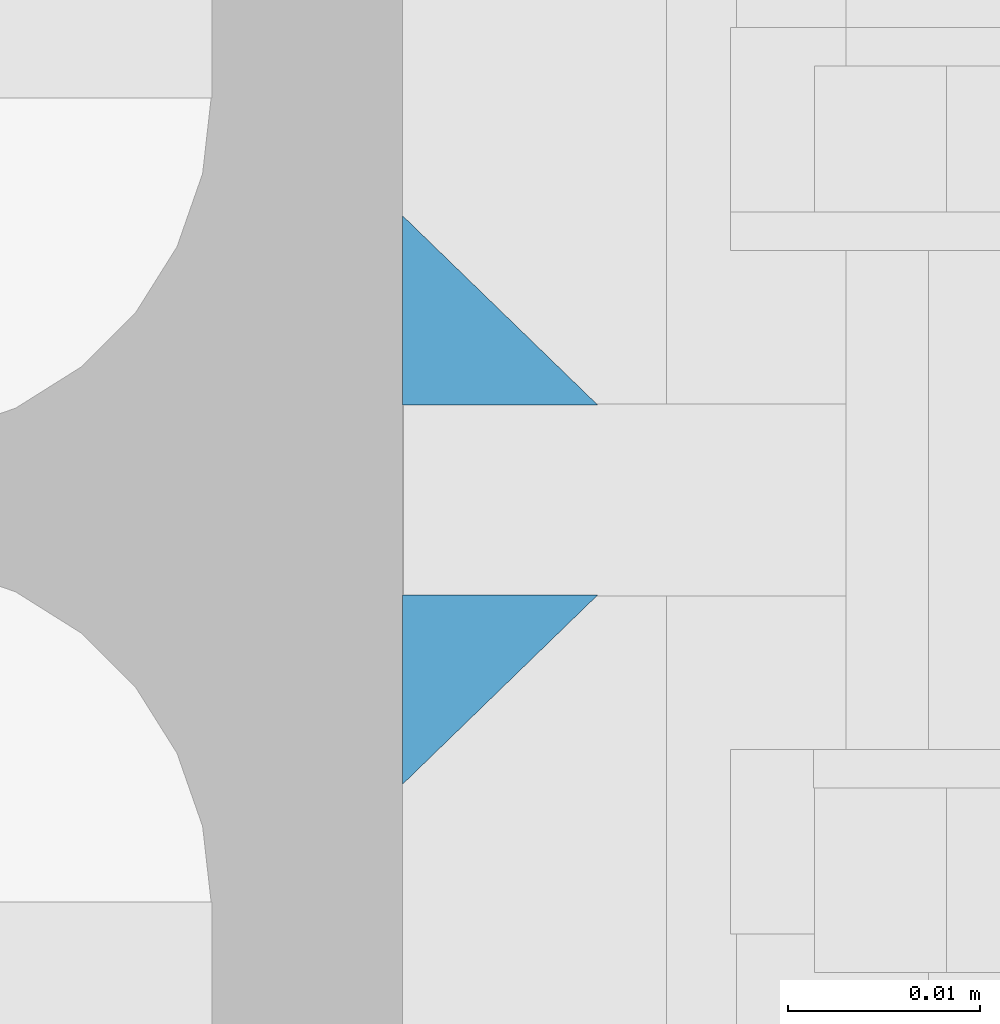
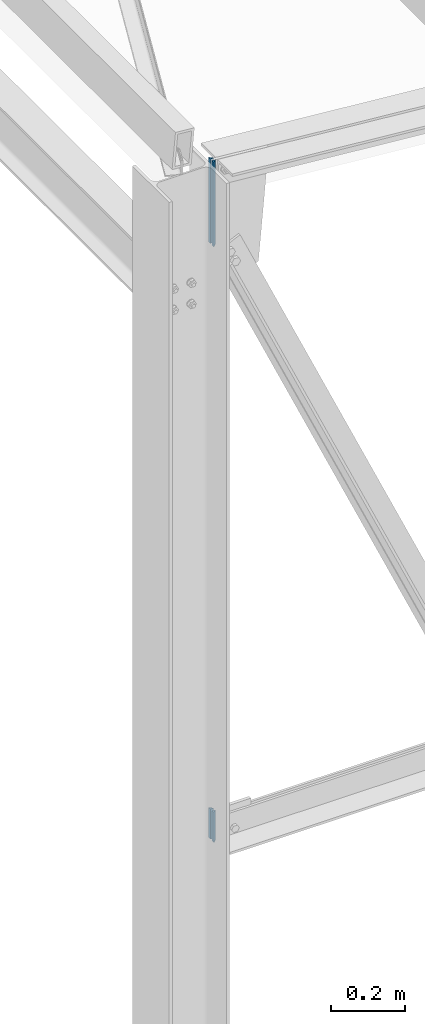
# One storey, part 21 of 251: 4 fasteners.
"""IFC4 building model written with IfcOpenShell, lengths in metres."""

from ifc_helpers import new_model, si_unit, frame, origin_with_axes, place, context, project, spatial, polyline, outline, extrude, type_object, element, save


model = new_model("IFC4")

# Units and contexts
model_context = context("Model", 3, precision=1e-05, world=origin_with_axes())
ifc_project = project(units=[si_unit("LENGTHUNIT", "METRE"), si_unit("AREAUNIT", "SQUARE_METRE"), si_unit("VOLUMEUNIT", "CUBIC_METRE"), si_unit("MASSUNIT", "GRAM", prefix="KILO"), si_unit("TIMEUNIT", "SECOND"), si_unit("PLANEANGLEUNIT", "RADIAN"), si_unit("SOLIDANGLEUNIT", "STERADIAN"), si_unit("THERMODYNAMICTEMPERATUREUNIT", "DEGREE_CELSIUS")], contexts=[model_context])

# Site, building, storey
placement_1 = place(None, origin_with_axes())
site = spatial("IfcSite", under=ifc_project, at=placement_1, Name="Italia", CompositionType="ELEMENT")
building = spatial("IfcBuilding", under=site, at=placement_1, Name="Deposito", CompositionType="ELEMENT")
storey = spatial("IfcBuildingStorey", under=building, at=placement_1, Name="Storey 0", CompositionType="ELEMENT", Elevation=0.0)

# Fasteners
fastener_type_1 = type_object("IfcFastenerType", Name="Reticolare 2", PredefinedType="WELD")
placement_2 = place(placement_1, origin_with_axes())
fastener_1_placement = place(placement_2, origin_with_axes())
element("IfcFastener", 1, at=fastener_1_placement, inside=storey, type_object=fastener_type_1, Name="Reticolare 2", context=model_context, shape_type="SweptSolid", body=[
    extrude(outline(polyline([(0.0, 0.0), (0.00986816, 0.0101733), (0.00986816, 0.0), (0.0, 0.0)])), frame((6.14495, -0.0148182, 5.07805), z_axis=(0.0, 0.0, -1.0), x_axis=(0.0, 1.0, 0.0)), (0.0, 0.0, 1.0), 0.1001),
])
fastener_type_2 = type_object("IfcFastenerType", Name="Reticolare 2", PredefinedType="WELD")
fastener_2_placement = place(placement_2, origin_with_axes())
element("IfcFastener", 2, at=fastener_2_placement, inside=storey, type_object=fastener_type_2, Name="Reticolare 2", context=model_context, shape_type="SweptSolid", body=[
    extrude(outline(polyline([(0.0, 0.0), (-0.00986816, -0.0101733), (-0.00986816, 0.0), (0.0, 0.0)])), frame((6.14495, 0.0148182, 4.97795), z_axis=(0.0, 0.0, 1.0), x_axis=(0.0, 1.0, 0.0)), (0.0, 0.0, 1.0), 0.1001),
])
fastener_type_3 = type_object("IfcFastenerType", Name="Reticolare 2", PredefinedType="WELD")
fastener_3_placement = place(placement_2, origin_with_axes())
element("IfcFastener", 3, at=fastener_3_placement, inside=storey, type_object=fastener_type_3, Name="Reticolare 2", context=model_context, shape_type="SweptSolid", body=[
    extrude(outline(polyline([(0.0, 0.0), (0.00986816, 0.0101733), (0.00986816, 0.0), (0.0, 0.0)])), frame((6.14495, -0.0148182, 7.23455), z_axis=(0.0, 0.0, -1.0), x_axis=(0.0, 1.0, 0.0)), (0.0, 0.0, 1.0), 0.2803),
])
fastener_type_4 = type_object("IfcFastenerType", Name="Reticolare 2", PredefinedType="WELD")
fastener_4_placement = place(placement_2, origin_with_axes())
element("IfcFastener", 4, at=fastener_4_placement, inside=storey, type_object=fastener_type_4, Name="Reticolare 2", context=model_context, shape_type="SweptSolid", body=[
    extrude(outline(polyline([(0.0, 0.0), (-0.00986816, -0.0101733), (-0.00986816, 0.0), (0.0, 0.0)])), frame((6.14495, 0.0148182, 6.95425), z_axis=(0.0, 0.0, 1.0), x_axis=(0.0, 1.0, 0.0)), (0.0, 0.0, 1.0), 0.2803),
])

save(model, "model.ifc")
